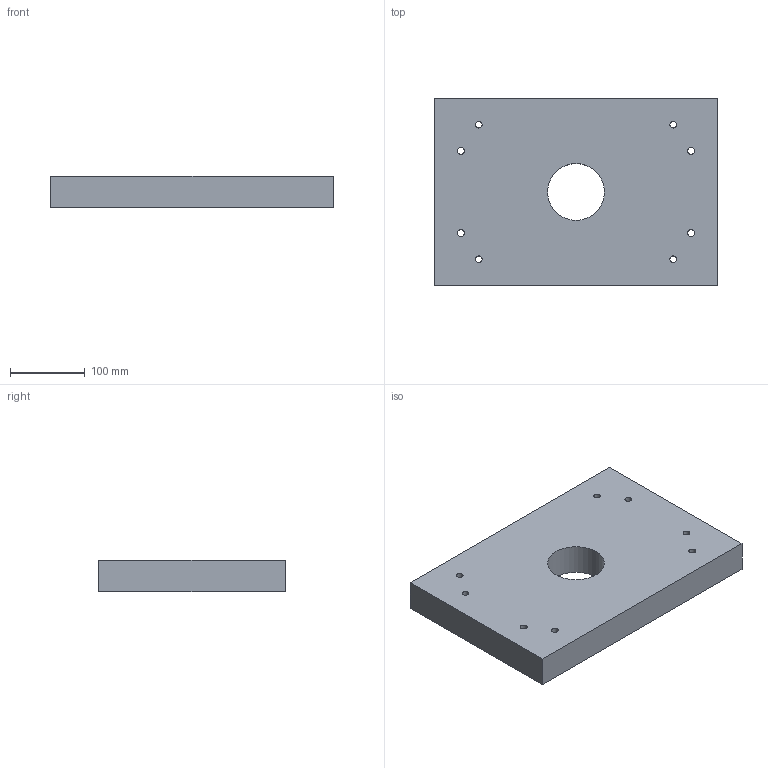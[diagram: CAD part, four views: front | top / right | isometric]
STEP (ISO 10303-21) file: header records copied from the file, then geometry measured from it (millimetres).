
FILE_DESCRIPTION(('Open CASCADE Model'),'2;1');
FILE_NAME('Open CASCADE Shape Model','2026-10-08T06:53:13',('Author'),( 'Open CASCADE'),'Open CASCADE STEP processor 7.8','Open CASCADE 7.8' ,'Unknown');
FILE_SCHEMA(('AUTOMOTIVE_DESIGN { 1 0 10303 214 1 1 1 1 }'));
Length unit declared in the file: millimetre
Products named in the file (1): Open CASCADE STEP translator 7.8 7
Bounding box: 378 x 250 x 42 mm (x, y, z)
Volume: 3757093.3 mm3; surface area: 251189.3 mm2
Topology: 1 solids, 1 shells, 15 faces, 39 edges, 26 vertices
Faces by surface type: cylinder 9, plane 6
Full cylindrical faces by diameter (mm): 9 x8, 76 x1
Entity records: 1078 total; most frequent: CARTESIAN_POINT 267, DIRECTION 149, LINE 81, VECTOR 81, ORIENTED_EDGE 78, PCURVE 78, DEFINITIONAL_REPRESENTATION 78, EDGE_CURVE 39
